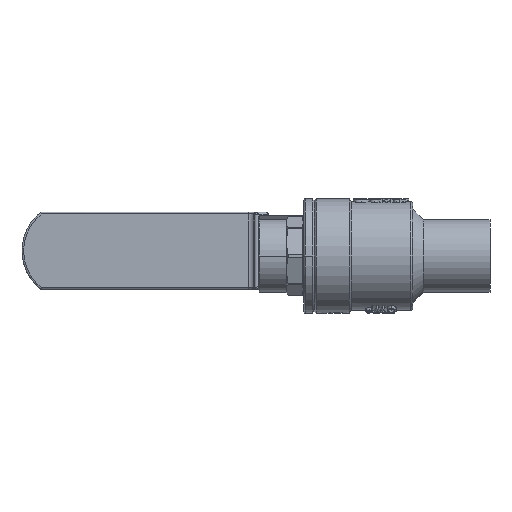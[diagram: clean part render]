
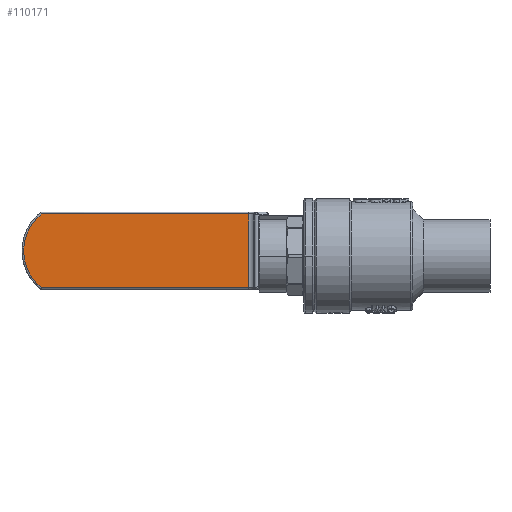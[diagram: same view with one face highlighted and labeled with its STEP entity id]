
A CAD part, front view. The second image highlights one B-rep face of the part: STEP entity #110171.
In plain terms, the highlighted planar face has unit normal (0, -1, 0).
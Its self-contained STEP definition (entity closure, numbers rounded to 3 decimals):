
#12972 = VERTEX_POINT ( 'NONE', #56525 ) ;
#15050 = ORIENTED_EDGE ( 'NONE', *, *, #118799, .T. ) ;
#16249 = CARTESIAN_POINT ( 'NONE',  ( -63.662, -4., 10. ) ) ;
#18984 = FACE_OUTER_BOUND ( 'NONE', #116930, .T. ) ;
#20369 = AXIS2_PLACEMENT_3D ( 'NONE', #70877, #117572, #99876 ) ;
#27215 = AXIS2_PLACEMENT_3D ( 'NONE', #16249, #43610, #98374 ) ;
#29858 = CARTESIAN_POINT ( 'NONE',  ( -63.662, -4., -10.5 ) ) ;
#30505 = VECTOR ( 'NONE', #76133, 1000. ) ;
#37488 = VECTOR ( 'NONE', #85263, 1000. ) ;
#39316 = ORIENTED_EDGE ( 'NONE', *, *, #96082, .T. ) ;
#40302 = CARTESIAN_POINT ( 'NONE',  ( -63.662, -4., 10. ) ) ;
#43610 = DIRECTION ( 'NONE',  ( 0., 1., 0. ) ) ;
#47550 = LINE ( 'NONE', #48666, #37488 ) ;
#48666 = CARTESIAN_POINT ( 'NONE',  ( -63.662, -4., 10.5 ) ) ;
#55011 = EDGE_CURVE ( 'NONE', #12972, #94757, #95708, .T. ) ;
#56525 = CARTESIAN_POINT ( 'NONE',  ( -4.515, -4., -10.5 ) ) ;
#67757 = ORIENTED_EDGE ( 'NONE', *, *, #55011, .T. ) ;
#70877 = CARTESIAN_POINT ( 'NONE',  ( -13., -4., 0. ) ) ;
#76133 = DIRECTION ( 'NONE',  ( 0., 0., -1. ) ) ;
#79447 = CARTESIAN_POINT ( 'NONE',  ( -4.515, -4., 10.5 ) ) ;
#80389 = VERTEX_POINT ( 'NONE', #29858 ) ;
#80690 = DIRECTION ( 'NONE',  ( 1., 0., 0. ) ) ;
#80703 = ORIENTED_EDGE ( 'NONE', *, *, #94375, .T. ) ;
#81102 = CARTESIAN_POINT ( 'NONE',  ( -63.662, -4., -10.5 ) ) ;
#85263 = DIRECTION ( 'NONE',  ( -1., 0., 0. ) ) ;
#86714 = VERTEX_POINT ( 'NONE', #105837 ) ;
#94375 = EDGE_CURVE ( 'NONE', #86714, #80389, #106756, .T. ) ;
#94613 = LINE ( 'NONE', #81102, #108910 ) ;
#94757 = VERTEX_POINT ( 'NONE', #79447 ) ;
#95708 = CIRCLE ( 'NONE', #20369, 13.5 ) ;
#96082 = EDGE_CURVE ( 'NONE', #94757, #86714, #47550, .T. ) ;
#98374 = DIRECTION ( 'NONE',  ( -1., 0., 0. ) ) ;
#99876 = DIRECTION ( 'NONE',  ( -1., 0., 0. ) ) ;
#105837 = CARTESIAN_POINT ( 'NONE',  ( -63.662, -4., 10.5 ) ) ;
#106756 = LINE ( 'NONE', #40302, #30505 ) ;
#107642 = PLANE ( 'NONE',  #27215 ) ;
#108910 = VECTOR ( 'NONE', #80690, 1000. ) ;
#110171 = ADVANCED_FACE ( 'NONE', ( #18984 ), #107642, .F. ) ;
#116930 = EDGE_LOOP ( 'NONE', ( #80703, #15050, #67757, #39316 ) ) ;
#117572 = DIRECTION ( 'NONE',  ( 0., -1., 0. ) ) ;
#118799 = EDGE_CURVE ( 'NONE', #80389, #12972, #94613, .T. ) ;
